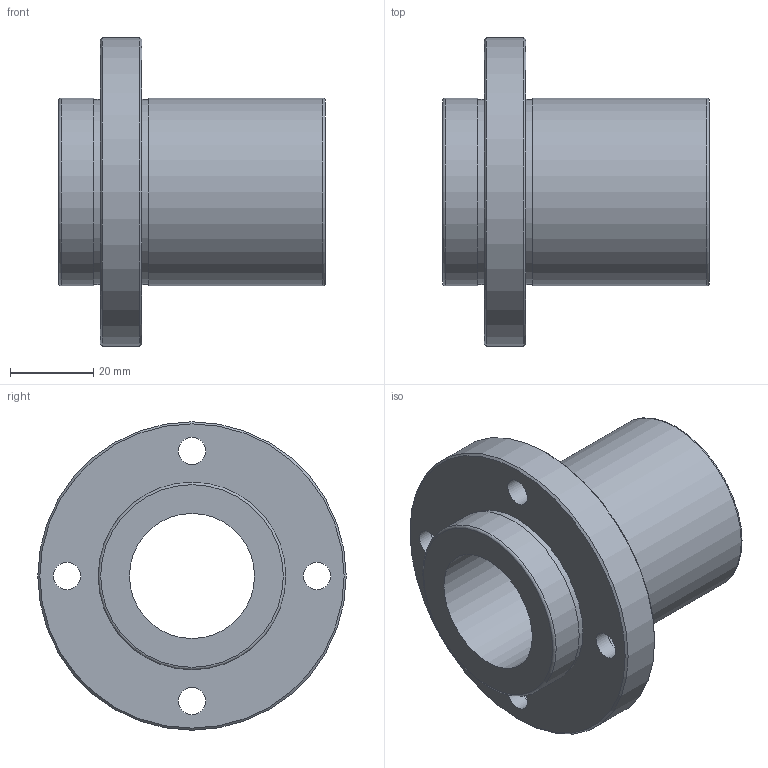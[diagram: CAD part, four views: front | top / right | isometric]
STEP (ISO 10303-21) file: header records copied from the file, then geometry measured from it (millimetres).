
FILE_DESCRIPTION(('STEP AP203'),'1');
FILE_NAME('//192.168.1.1/share/s-4 技術開発/s-4-4_CAD/s-4-4-3_見直し済み/002 修正済み/NFID-V/NFID-V_TOP/NFID-30VUU.step','2022-03-08T02:18:25',(' '),(' '),'Spatial InterOp 3D',' ',' ');
FILE_SCHEMA(('CONFIG_CONTROL_DESIGN'));
Length unit declared in the file: millimetre
Products named in the file (1): 1
Bounding box: 64 x 74 x 74 mm (x, y, z)
Volume: 80634.5 mm3; surface area: 24013.1 mm2
Topology: 1 solids, 1 shells, 28 faces, 58 edges, 40 vertices
Faces by surface type: cylinder 14, plane 10, torus 2, cone 2
Full cylindrical faces by diameter (mm): 6.6 x4, 11 x4, 30 x1, 44.4 x2, 45 x2, 74 x1
Entity records: 668 total; most frequent: DIRECTION 122, CARTESIAN_POINT 93, EDGE_LOOP 64, ORIENTED_EDGE 64, AXIS2_PLACEMENT_3D 61, FACE_OUTER_BOUND 44, EDGE_CURVE 32, VERTEX_POINT 32
